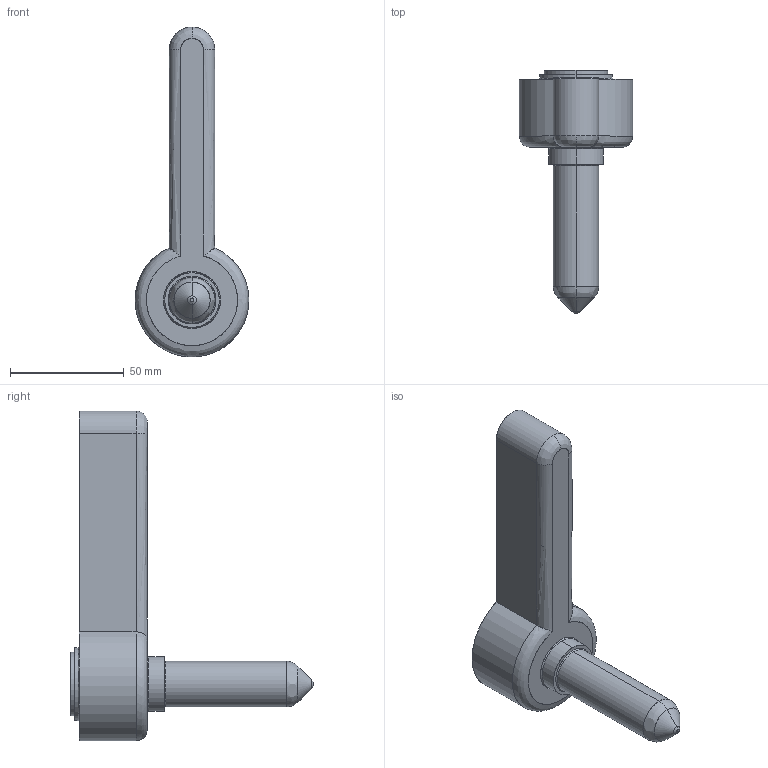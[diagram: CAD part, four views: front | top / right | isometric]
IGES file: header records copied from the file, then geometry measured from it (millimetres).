
Start section: SolidWorks IGES file using analytic representation for surfaces
Global section: file name: C:\Documents and Settings\ws-20\Desktop\TEM\Sede UGGS2540-S-0 C-73 L-105 Ød-1.5.IGS; native system: SolidWorks 2012; preprocessor: SolidWorks 2012; author: ws-20; date: 120516.094432; units: millimetre
Bounding box: 49.99 x 107.17 x 145 mm (x, y, z)
Surface area: 23430.7 mm2 (no closed solid volume)
Topology: 0 solids, 0 shells, 39 faces, 690 edges, 690 vertices
Faces by surface type: revolution 25, bspline 14
